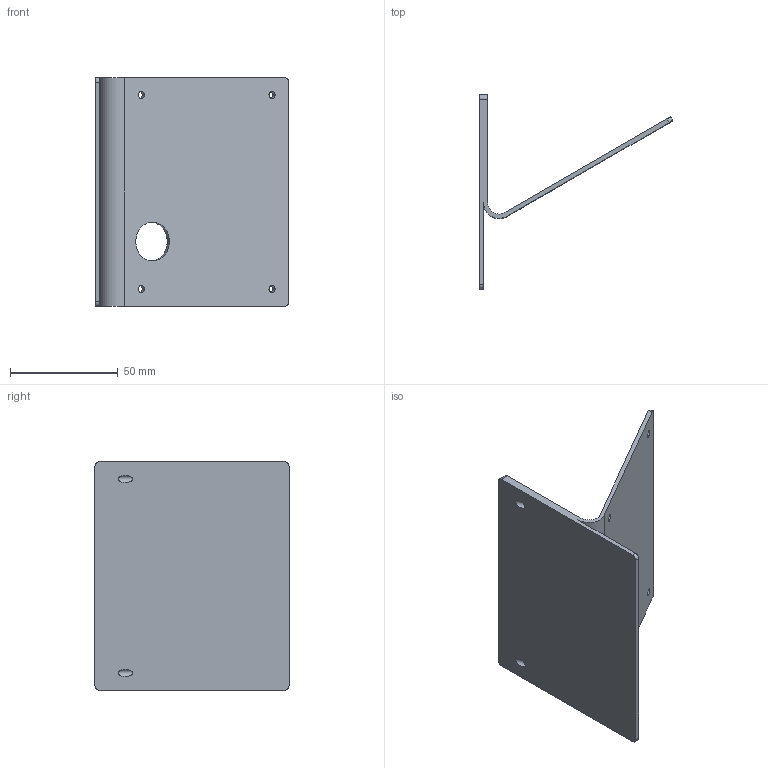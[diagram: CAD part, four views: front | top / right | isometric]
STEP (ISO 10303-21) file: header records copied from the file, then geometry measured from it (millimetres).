
FILE_DESCRIPTION(('FreeCAD Model'),'2;1');
FILE_NAME('Open CASCADE Shape Model','2021-07-31T18:35:17',('Author'),( ''),'Open CASCADE STEP processor 7.4','FreeCAD','Unknown');
FILE_SCHEMA(('AUTOMOTIVE_DESIGN { 1 0 10303 214 1 1 1 1 }'));
Length unit declared in the file: millimetre
Products named in the file (1): SatBoxStand
Bounding box: 89.87 x 90 x 106 mm (x, y, z)
Volume: 50579.5 mm3; surface area: 42225.2 mm2
Topology: 1 solids, 1 shells, 25 faces, 69 edges, 46 vertices
Faces by surface type: cylinder 15, plane 10
Full cylindrical faces by diameter (mm): 3.3 x6, 18 x1
Entity records: 1916 total; most frequent: CARTESIAN_POINT 491, DIRECTION 269, LINE 143, VECTOR 143, ORIENTED_EDGE 138, PCURVE 138, DEFINITIONAL_REPRESENTATION 138, EDGE_CURVE 69
